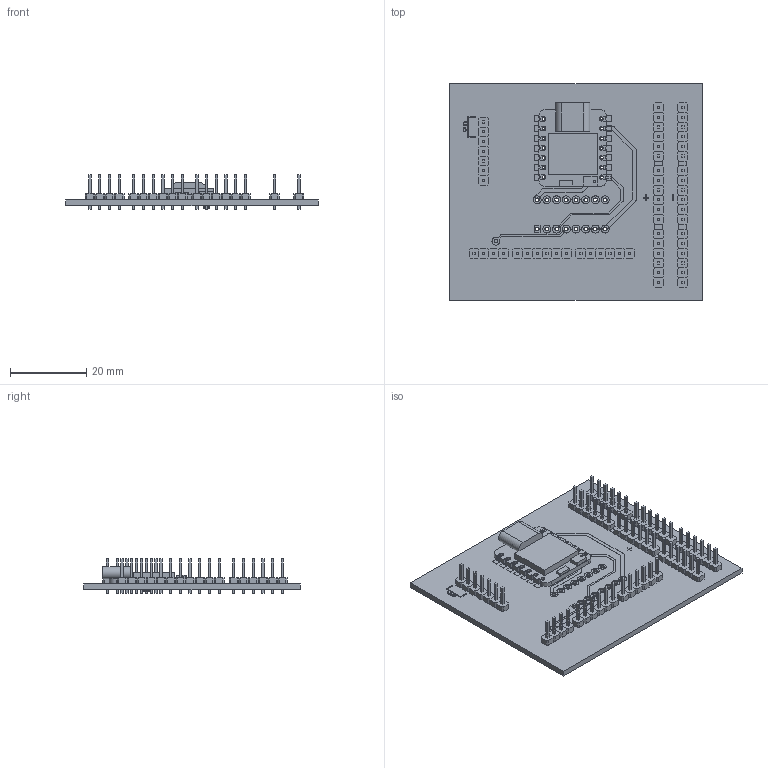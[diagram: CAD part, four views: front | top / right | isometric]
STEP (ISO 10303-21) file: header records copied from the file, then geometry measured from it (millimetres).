
FILE_DESCRIPTION(('KiCad electronic assembly'),'2;1');
FILE_NAME('FinalProject.step','2025-07-23T08:49:13',('Pcbnew'),('Kicad') ,'Open CASCADE STEP processor 7.9','KiCad to STEP converter','Unknown' );
FILE_SCHEMA(('AUTOMOTIVE_DESIGN { 1 0 10303 214 1 1 1 1 }'));
Length unit declared in the file: millimetre
Products named in the file (43): FinalProject 1; PinHeader-01x06_P2.54mm_Vertical_THT; FinalProject 1.1.1; FinalProject 1.1.2; PinHeader-01x07_P2.54mm_Vertical_THT; FinalProject 1.4.1; FinalProject 1.4.2; Seeed_XIAO-nRF52840_Sense; SoC_nRF_Sense; Mic_nRF_Sense; Antenna_nRF_Sense; XIAO_Generic; Board; USB; Contact; Contact Clones; Body007; Body008; Body009; Body010; Body011; Body012; Body013; Body014; Body015; Body016; Body017; Body018; Body019; PinHeader-01x04_P2.54mm_Vertical_THT; FinalProject 1.7.1; FinalProject 1.7.2; FinalProject 1.7.3; FinalProject 1.7.4; Resistor-1206; Ceramic; Contacts; Contacts (Mirror #1); Overcoat; FinalProject_copper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
Assembly tree (49 placements, depth 5):
  FinalProject 1
    PinHeader-01x06_P2.54mm_Vertical_THT  x8
      FinalProject 1.1.1
      FinalProject 1.1.2
    PinHeader-01x07_P2.54mm_Vertical_THT
      FinalProject 1.4.1
      FinalProject 1.4.2
    Seeed_XIAO-nRF52840_Sense
      SoC_nRF_Sense
      Mic_nRF_Sense
      Antenna_nRF_Sense
      XIAO_Generic
        Board
        USB
        Contact
        Contact Clones
          Body007
          Body008
          Body009
          Body010
          Body011
          Body012
          Body013
          Body014
          Body015
          Body016
          Body017
          Body018
          Body019
    PinHeader-01x04_P2.54mm_Vertical_THT
      FinalProject 1.7.1
      FinalProject 1.7.2
      FinalProject 1.7.3
      FinalProject 1.7.4
    Resistor-1206
      Ceramic
      Contacts
      Contacts (Mirror #1)
      Overcoat
    FinalProject_copper
    FinalProject_pad
    FinalProject_via
    FinalProject_PCB
Bounding box: 66.04 x 56.74 x 9 mm (x, y, z)
Volume: 7129.1 mm3; surface area: 16080.6 mm2
Topology: 398 solids, 398 shells, 3571 faces, 7976 edges, 5322 vertices
Faces by surface type: plane 2559, cylinder 1012
Full cylindrical faces by diameter (mm): 0.5 x1, 0.7 x14, 0.8 x28, 0.95 x223, 0.975 x84, 1 x149, 1.15 x42, 1.2 x28, 1.8 x28, 2 x116, 2.1 x30
Entity records: 79538 total; most frequent: DIRECTION 13546, CARTESIAN_POINT 12733, ORIENTED_EDGE 11920, EDGE_CURVE 5960, AXIS2_PLACEMENT_3D 4819, VERTEX_POINT 3978, LINE 3908, VECTOR 3908
